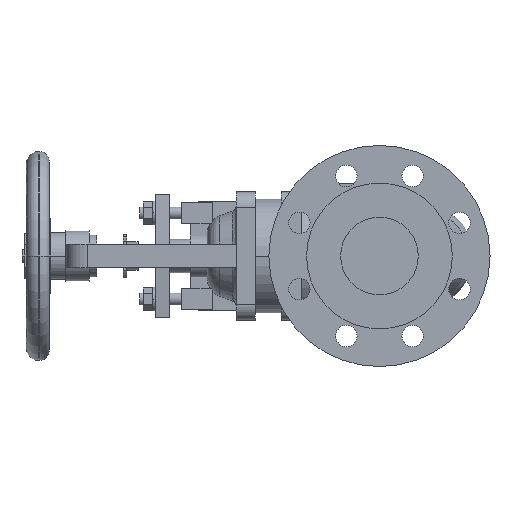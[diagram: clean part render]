
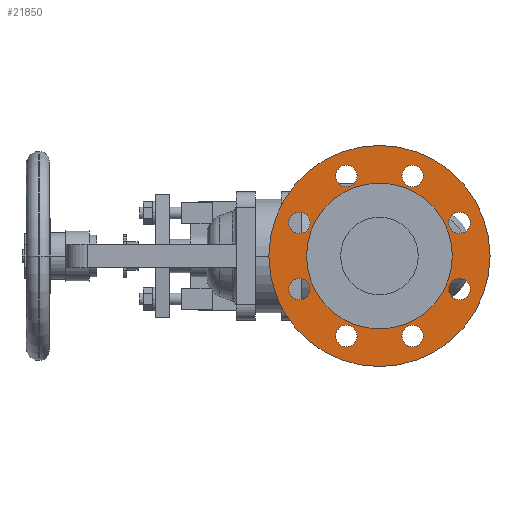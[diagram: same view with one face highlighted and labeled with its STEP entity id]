
A CAD part, left-side view. The second image highlights one B-rep face of the part: STEP entity #21850.
In plain terms, the highlighted planar face has unit normal (-1, 0, 0).
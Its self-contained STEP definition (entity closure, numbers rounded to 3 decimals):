
#11000=CARTESIAN_POINT('',(4.3,0.,-92.5));
#11010=VERTEX_POINT('',#11000);
#11170=CARTESIAN_POINT('',(4.3,0.,92.5));
#11180=VERTEX_POINT('',#11170);
#11210=CARTESIAN_POINT('',(4.3,0.,0.));
#11220=DIRECTION('',(1.,0.,0.));
#11230=DIRECTION('',(0.,0.,-1.));
#11240=AXIS2_PLACEMENT_3D('',#11210,#11220,#11230);
#11250=CIRCLE('',#11240,92.5);
#11260=CARTESIAN_POINT('',(4.3,92.5,0.));
#11270=VERTEX_POINT('',#11260);
#11280=EDGE_CURVE('',#11270,#11180,#11250,.T.);
#11300=EDGE_CURVE('',#11010,#11270,#11250,.T.);
#11530=CARTESIAN_POINT('',(4.3,27.745,
-57.981));
#11540=VERTEX_POINT('',#11530);
#11700=CARTESIAN_POINT('',(4.3,27.745,
-75.981));
#11710=VERTEX_POINT('',#11700);
#11740=CARTESIAN_POINT('',(4.3,27.745,
-66.981));
#11750=DIRECTION('',(-1.,0.,0.));
#11760=DIRECTION('',(0.,0.,-1.));
#11770=AXIS2_PLACEMENT_3D('',#11740,#11750,#11760);
#11780=CIRCLE('',#11770,9.);
#11790=EDGE_CURVE('',#11540,#11710,#11780,.T.);
#12020=CARTESIAN_POINT('',(4.3,-27.745,
-75.981));
#12030=VERTEX_POINT('',#12020);
#12190=CARTESIAN_POINT('',(4.3,-27.745,
-57.981));
#12200=VERTEX_POINT('',#12190);
#12230=CARTESIAN_POINT('',(4.3,-27.745,
-66.981));
#12240=DIRECTION('',(-1.,0.,0.));
#12250=DIRECTION('',(0.,0.,-1.));
#12260=AXIS2_PLACEMENT_3D('',#12230,#12240,#12250);
#12270=CIRCLE('',#12260,9.);
#12280=EDGE_CURVE('',#12030,#12200,#12270,.T.);
#12510=CARTESIAN_POINT('',(4.3,66.981,
-18.745));
#12520=VERTEX_POINT('',#12510);
#12680=CARTESIAN_POINT('',(4.3,66.981,
-36.745));
#12690=VERTEX_POINT('',#12680);
#12720=CARTESIAN_POINT('',(4.3,66.981,
-27.745));
#12730=DIRECTION('',(-1.,0.,0.));
#12740=DIRECTION('',(0.,0.,-1.));
#12750=AXIS2_PLACEMENT_3D('',#12720,#12730,#12740);
#12760=CIRCLE('',#12750,9.);
#12770=EDGE_CURVE('',#12520,#12690,#12760,.T.);
#13000=CARTESIAN_POINT('',(4.3,-66.981,
-18.745));
#13010=VERTEX_POINT('',#13000);
#13040=CARTESIAN_POINT('',(4.3,-66.981,
-27.745));
#13050=DIRECTION('',(-1.,0.,0.));
#13060=DIRECTION('',(0.,0.,-1.));
#13070=AXIS2_PLACEMENT_3D('',#13040,#13050,#13060);
#13080=CIRCLE('',#13070,9.);
#13090=CARTESIAN_POINT('',(4.3,-66.981,
-36.745));
#13100=VERTEX_POINT('',#13090);
#13110=EDGE_CURVE('',#13100,#13010,#13080,.T.);
#13490=CARTESIAN_POINT('',(4.3,66.981,
36.745));
#13500=VERTEX_POINT('',#13490);
#13660=CARTESIAN_POINT('',(4.3,66.981,
18.745));
#13670=VERTEX_POINT('',#13660);
#13700=CARTESIAN_POINT('',(4.3,66.981,
27.745));
#13710=DIRECTION('',(-1.,0.,0.));
#13720=DIRECTION('',(0.,0.,-1.));
#13730=AXIS2_PLACEMENT_3D('',#13700,#13710,#13720);
#13740=CIRCLE('',#13730,9.);
#13750=EDGE_CURVE('',#13500,#13670,#13740,.T.);
#13980=CARTESIAN_POINT('',(4.3,-66.981,
36.745));
#13990=VERTEX_POINT('',#13980);
#14020=CARTESIAN_POINT('',(4.3,-66.981,
27.745));
#14030=DIRECTION('',(-1.,0.,0.));
#14040=DIRECTION('',(0.,0.,-1.));
#14050=AXIS2_PLACEMENT_3D('',#14020,#14030,#14040);
#14060=CIRCLE('',#14050,9.);
#14070=CARTESIAN_POINT('',(4.3,-66.981,
18.745));
#14080=VERTEX_POINT('',#14070);
#14090=EDGE_CURVE('',#14080,#13990,#14060,.T.);
#14470=CARTESIAN_POINT('',(4.3,27.745,
57.981));
#14480=VERTEX_POINT('',#14470);
#14510=CARTESIAN_POINT('',(4.3,27.745,
66.981));
#14520=DIRECTION('',(-1.,0.,0.));
#14530=DIRECTION('',(0.,0.,-1.));
#14540=AXIS2_PLACEMENT_3D('',#14510,#14520,#14530);
#14550=CIRCLE('',#14540,9.);
#14560=CARTESIAN_POINT('',(4.3,27.745,
75.981));
#14570=VERTEX_POINT('',#14560);
#14580=EDGE_CURVE('',#14570,#14480,#14550,.T.);
#14960=CARTESIAN_POINT('',(4.3,-27.745,
75.981));
#14970=VERTEX_POINT('',#14960);
#15130=CARTESIAN_POINT('',(4.3,-27.745,
57.981));
#15140=VERTEX_POINT('',#15130);
#15170=CARTESIAN_POINT('',(4.3,-27.745,
66.981));
#15180=DIRECTION('',(-1.,0.,0.));
#15190=DIRECTION('',(0.,0.,-1.));
#15200=AXIS2_PLACEMENT_3D('',#15170,#15180,#15190);
#15210=CIRCLE('',#15200,9.);
#15220=EDGE_CURVE('',#14970,#15140,#15210,.T.);
#15450=CARTESIAN_POINT('',(4.3,-61.,0.));
#15460=VERTEX_POINT('',#15450);
#15490=CARTESIAN_POINT('',(4.3,0.,0.));
#15500=DIRECTION('',(-1.,0.,0.));
#15510=DIRECTION('',(0.,1.,0.));
#15520=AXIS2_PLACEMENT_3D('',#15490,#15500,#15510);
#15530=CIRCLE('',#15520,61.);
#15540=CARTESIAN_POINT('',(4.3,61.,0.));
#15550=VERTEX_POINT('',#15540);
#15560=EDGE_CURVE('',#15550,#15460,#15530,.T.);
#21290=CARTESIAN_POINT('',(4.3,76.75,0.)
);
#21300=DIRECTION('',(1.,0.,0.));
#21310=DIRECTION('',(0.,-1.,0.));
#21320=AXIS2_PLACEMENT_3D('',#21290,#21300,#21310);
#21330=PLANE('',#21320);
#21340=ORIENTED_EDGE('',*,*,#15560,.F.);
#21350=EDGE_CURVE('',#15460,#15550,#15530,.T.);
#21360=ORIENTED_EDGE('',*,*,#21350,.F.);
#21370=EDGE_LOOP('',(#21360,#21340));
#21380=FACE_BOUND('',#21370,.T.);
#21390=ORIENTED_EDGE('',*,*,#11280,.F.);
#21400=EDGE_CURVE('',#11180,#11010,#11250,.T.);
#21410=ORIENTED_EDGE('',*,*,#21400,.F.);
#21420=ORIENTED_EDGE('',*,*,#11300,.F.);
#21430=EDGE_LOOP('',(#21420,#21410,#21390));
#21440=FACE_OUTER_BOUND('',#21430,.T.);
#21450=EDGE_CURVE('',#11710,#11540,#11780,.T.);
#21460=ORIENTED_EDGE('',*,*,#21450,.F.);
#21470=ORIENTED_EDGE('',*,*,#11790,.F.);
#21480=EDGE_LOOP('',(#21470,#21460));
#21490=FACE_BOUND('',#21480,.T.);
#21500=EDGE_CURVE('',#12200,#12030,#12270,.T.);
#21510=ORIENTED_EDGE('',*,*,#21500,.F.);
#21520=ORIENTED_EDGE('',*,*,#12280,.F.);
#21530=EDGE_LOOP('',(#21520,#21510));
#21540=FACE_BOUND('',#21530,.T.);
#21550=EDGE_CURVE('',#12690,#12520,#12760,.T.);
#21560=ORIENTED_EDGE('',*,*,#21550,.F.);
#21570=ORIENTED_EDGE('',*,*,#12770,.F.);
#21580=EDGE_LOOP('',(#21570,#21560));
#21590=FACE_BOUND('',#21580,.T.);
#21600=EDGE_CURVE('',#13010,#13100,#13080,.T.);
#21610=ORIENTED_EDGE('',*,*,#21600,.F.);
#21620=ORIENTED_EDGE('',*,*,#13110,.F.);
#21630=EDGE_LOOP('',(#21620,#21610));
#21640=FACE_BOUND('',#21630,.T.);
#21650=EDGE_CURVE('',#13670,#13500,#13740,.T.);
#21660=ORIENTED_EDGE('',*,*,#21650,.F.);
#21670=ORIENTED_EDGE('',*,*,#13750,.F.);
#21680=EDGE_LOOP('',(#21670,#21660));
#21690=FACE_BOUND('',#21680,.T.);
#21700=ORIENTED_EDGE('',*,*,#14090,.F.);
#21710=EDGE_CURVE('',#13990,#14080,#14060,.T.);
#21720=ORIENTED_EDGE('',*,*,#21710,.F.);
#21730=EDGE_LOOP('',(#21720,#21700));
#21740=FACE_BOUND('',#21730,.T.);
#21750=ORIENTED_EDGE('',*,*,#14580,.F.);
#21760=EDGE_CURVE('',#14480,#14570,#14550,.T.);
#21770=ORIENTED_EDGE('',*,*,#21760,.F.);
#21780=EDGE_LOOP('',(#21770,#21750));
#21790=FACE_BOUND('',#21780,.T.);
#21800=EDGE_CURVE('',#15140,#14970,#15210,.T.);
#21810=ORIENTED_EDGE('',*,*,#21800,.F.);
#21820=ORIENTED_EDGE('',*,*,#15220,.F.);
#21830=EDGE_LOOP('',(#21820,#21810));
#21840=FACE_BOUND('',#21830,.T.);
#21850=ADVANCED_FACE('',(#21380,#21440,#21490,#21540,#21590,#21640,
#21690,#21740,#21790,#21840),#21330,.F.);
